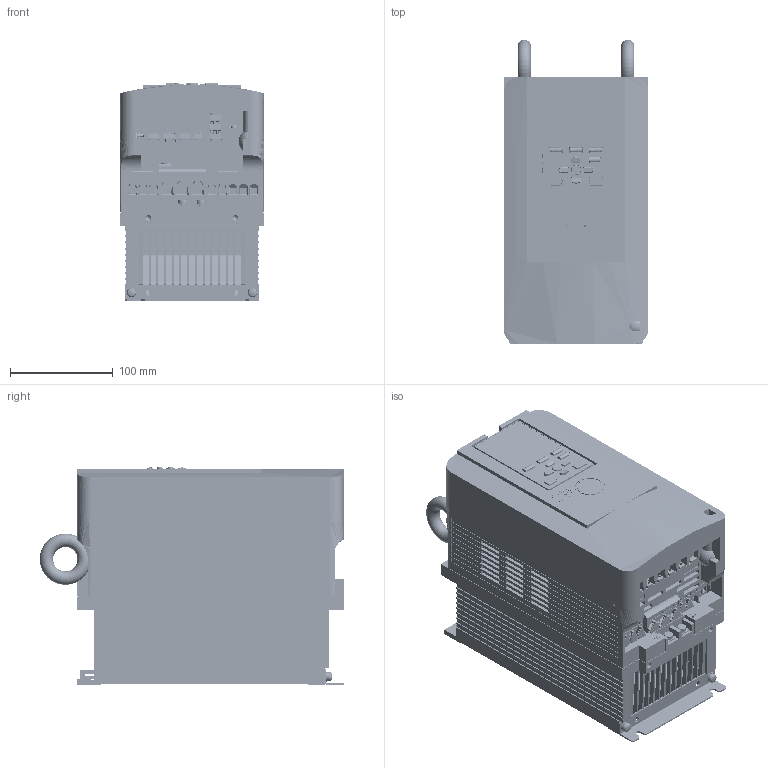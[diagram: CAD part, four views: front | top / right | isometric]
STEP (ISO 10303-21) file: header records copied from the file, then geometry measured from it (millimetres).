
FILE_DESCRIPTION((''),'2;1');
FILE_NAME('A1_47P5_OPEN_ASM','2016-05-20T',('y-toki'),('YASKAWA ELECTRIC CORCORATION'),'PRO/ENGINEER BY PARAMETRIC TECHNOLOGY CORPORATION, 2015110','PRO/ENGINEER BY PARAMETRIC TECHNOLOGY CORPORATION, 2015110','');
FILE_SCHEMA(('AUTOMOTIVE_DESIGN { 1 0 10303 214 1 1 1 1 }'));
Products named in the file (26): A1_47P5_OPEN_BASE; A1_GEM_OPEN_MTG_PLATE; MS15_M5X14; A_GEM_OPEN_60FAN; A1_47P5_OPEN_FAN_COVER; SCAT41027-B; MS15_M4X20; A_GEM_OPEN_CONT_TERMINAL_BOARD1; MK3DSN1P5_3-5P08; MKDSN1P5_11; SMKDSN1P5_12; SMKDSN1P5_9; TBET31116_1_1; TBET31116_1_2; TBET31116-B_1_3_I2; TBET31116-B_1_ASM; TBET31116_2; TBET31116-B_ASM; A_GEM_OPEN_CONT_TERMINAL_BOARD_ASM; A_GEM_OPEN_LED; A1_GEM_OPEN_IP20_COVER; A1_GEM_OPEN_FP; A_GEM_OPEN_USB_COVER; 2005951081PDM000_01_UNIT_MODEL; A_GEM_OPEN_LCD_OPERATOR; A1_47P5_OPEN_ASM
Assembly tree (28 placements, depth 5):
  A1_47P5_OPEN_ASM
    A1_47P5_OPEN_BASE
    A1_GEM_OPEN_MTG_PLATE
    MS15_M5X14  x2
    A_GEM_OPEN_60FAN  x2
    A1_47P5_OPEN_FAN_COVER
    SCAT41027-B  x2
    MS15_M4X20
    A_GEM_OPEN_CONT_TERMINAL_BOARD_ASM
      A_GEM_OPEN_CONT_TERMINAL_BOARD1
      MK3DSN1P5_3-5P08
      MKDSN1P5_11
      SMKDSN1P5_12
      SMKDSN1P5_9
      TBET31116-B_ASM
        TBET31116-B_1_ASM
          TBET31116_1_1
          TBET31116_1_2
          TBET31116-B_1_3_I2
        TBET31116_2
    A_GEM_OPEN_LED
    A1_GEM_OPEN_IP20_COVER
    A1_GEM_OPEN_FP
    A_GEM_OPEN_USB_COVER
    2005951081PDM000_01_UNIT_MODEL
    A_GEM_OPEN_LCD_OPERATOR
Bounding box: 140 x 296.8 x 212.3 mm (x, y, z)
Surface area: 816520.1 mm2 (no closed solid volume)
Topology: 0 solids, 0 shells, 9564 faces, 52422 edges, 52219 vertices
Faces by surface type: bspline 9375, torus 169, sphere 20
Entity records: 825948 total; most frequent: CARTESIAN_POINT 252817, DIRECTION 72729, TRIMMED_CURVE 68524, VECTOR 64779, LINE 64779, DEFINITIONAL_REPRESENTATION 50454, PCURVE 50454, COMPOSITE_CURVE_SEGMENT 50454
